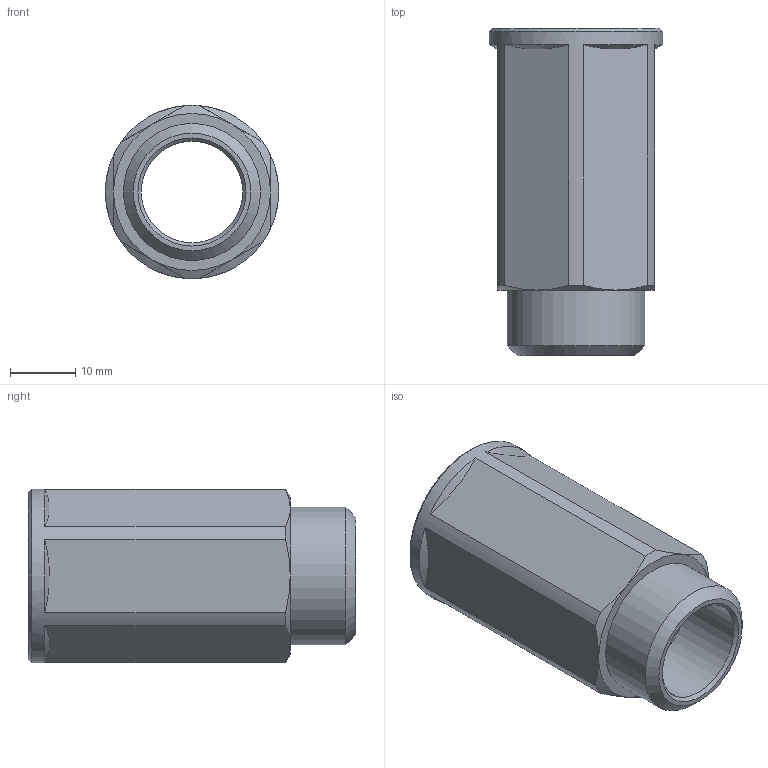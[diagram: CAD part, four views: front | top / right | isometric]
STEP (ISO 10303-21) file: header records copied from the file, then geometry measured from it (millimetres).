
FILE_DESCRIPTION(('STEP AP203'), '1');
FILE_NAME('ÂÐ.753128.019 - VTr.197.N.0440 Ôèò. ðåçüá. óäë', '2024-06-27T05:59:17', ('Boss'), (''), 'C3D Converter', 'C3D Toolkit', '');
FILE_SCHEMA(('CONFIG_CONTROL_DESIGN'));
Length unit declared in the file: millimetre
Products named in the file (1): ВР.753128.019
Bounding box: 26.5 x 50 x 26.5 mm (x, y, z)
Volume: 9420.4 mm3; surface area: 7526.5 mm2
Topology: 1 solids, 1 shells, 33 faces, 73 edges, 45 vertices
Faces by surface type: cone 16, plane 11, cylinder 5, torus 1
Full cylindrical faces by diameter (mm): 15.5 x1, 18.632 x1, 20.955 x1, 21.5 x1, 26.5 x1
Entity records: 1396 total; most frequent: CARTESIAN_POINT 675, DIRECTION 146, ORIENTED_EDGE 126, AXIS2_PLACEMENT_3D 67, EDGE_CURVE 63, EDGE_LOOP 48, VERTEX_POINT 47, ADVANCED_FACE 33
